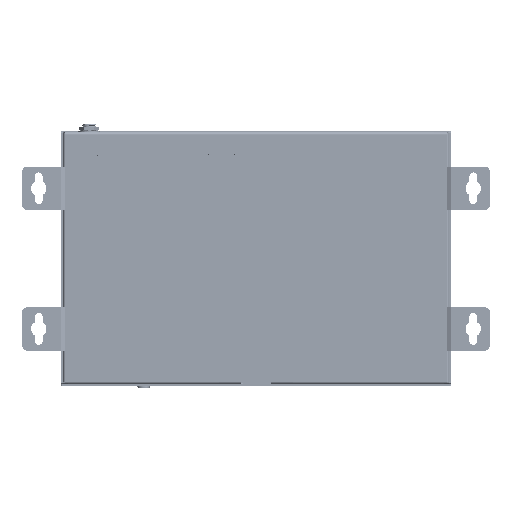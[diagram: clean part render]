
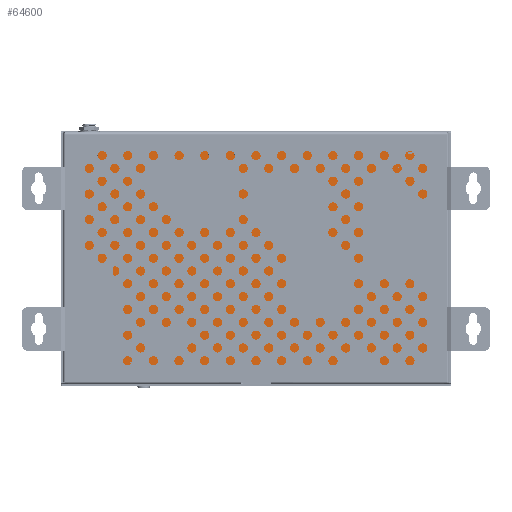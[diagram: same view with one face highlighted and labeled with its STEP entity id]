
A CAD part, front view. The second image highlights one B-rep face of the part: STEP entity #64600.
In plain terms, the highlighted planar face has unit normal (0, -1, 0).
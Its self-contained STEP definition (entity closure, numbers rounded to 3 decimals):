
#64061=CARTESIAN_POINT('',(-76.75,0.,-65.75));
#64062=DIRECTION('',(0.,1.,0.));
#64063=DIRECTION('',(0.,0.,-1.));
#64064=AXIS2_PLACEMENT_3D('',#64061,#64062,#64063);
#64066=DIRECTION('',(0.,0.,1.));
#64067=VECTOR('',#64066,63.25);
#64068=CARTESIAN_POINT('',(-78.75,0.,-65.75));
#64069=LINE('',#64068,#64067);
#64070=DIRECTION('',(-1.,0.,0.));
#64071=VECTOR('',#64070,20.5);
#64072=CARTESIAN_POINT('',(-78.75,0.,-2.5));
#64073=LINE('',#64072,#64071);
#64074=CARTESIAN_POINT('',(-99.25,0.,-0.5));
#64075=DIRECTION('',(0.,1.,0.));
#64076=DIRECTION('',(0.,0.,-1.));
#64077=AXIS2_PLACEMENT_3D('',#64074,#64075,#64076);
#64079=CARTESIAN_POINT('',(-99.25,0.,66.25));
#64080=DIRECTION('',(0.,1.,0.));
#64081=DIRECTION('',(-1.,0.,0.));
#64082=AXIS2_PLACEMENT_3D('',#64079,#64080,#64081);
#64084=DIRECTION('',(1.,0.,0.));
#64085=VECTOR('',#64084,14.5);
#64086=CARTESIAN_POINT('',(37.55,0.,59.75));
#64087=LINE('',#64086,#64085);
#64088=DIRECTION('',(0.,0.,1.));
#64089=VECTOR('',#64088,8.5);
#64090=CARTESIAN_POINT('',(52.05,0.,59.75));
#64091=LINE('',#64090,#64089);
#64092=CARTESIAN_POINT('',(99.25,0.,66.25));
#64093=DIRECTION('',(0.,1.,0.));
#64094=DIRECTION('',(0.,0.,1.));
#64095=AXIS2_PLACEMENT_3D('',#64092,#64093,#64094);
#64097=DIRECTION('',(0.,0.,-1.));
#64098=VECTOR('',#64097,132.);
#64099=CARTESIAN_POINT('',(101.25,0.,66.25));
#64100=LINE('',#64099,#64098);
#64101=CARTESIAN_POINT('',(99.25,0.,-65.75));
#64102=DIRECTION('',(0.,1.,0.));
#64103=DIRECTION('',(1.,0.,0.));
#64104=AXIS2_PLACEMENT_3D('',#64101,#64102,#64103);
#64106=DIRECTION('',(-1.,0.,0.));
#64107=VECTOR('',#64106,176.);
#64108=CARTESIAN_POINT('',(99.25,0.,-67.75));
#64109=LINE('',#64108,#64107);
#64110=CARTESIAN_POINT('',(71.,0.,36.1));
#64111=DIRECTION('',(0.,-1.,0.));
#64112=DIRECTION('',(1.,0.,0.));
#64113=AXIS2_PLACEMENT_3D('',#64110,#64111,#64112);
#64115=CARTESIAN_POINT('',(71.,0.,36.1));
#64116=DIRECTION('',(0.,-1.,0.));
#64117=DIRECTION('',(-1.,0.,0.));
#64118=AXIS2_PLACEMENT_3D('',#64115,#64116,#64117);
#64120=CARTESIAN_POINT('',(60.,0.,-57.25));
#64121=DIRECTION('',(0.,-1.,0.));
#64122=DIRECTION('',(1.,0.,0.));
#64123=AXIS2_PLACEMENT_3D('',#64120,#64121,#64122);
#64125=CARTESIAN_POINT('',(60.,0.,-57.25));
#64126=DIRECTION('',(0.,-1.,0.));
#64127=DIRECTION('',(-1.,0.,0.));
#64128=AXIS2_PLACEMENT_3D('',#64125,#64126,#64127);
#64130=CARTESIAN_POINT('',(-50.,0.,-43.9));
#64131=DIRECTION('',(0.,-1.,0.));
#64132=DIRECTION('',(1.,0.,0.));
#64133=AXIS2_PLACEMENT_3D('',#64130,#64131,#64132);
#64135=CARTESIAN_POINT('',(-50.,0.,-43.9));
#64136=DIRECTION('',(0.,-1.,0.));
#64137=DIRECTION('',(-1.,0.,0.));
#64138=AXIS2_PLACEMENT_3D('',#64135,#64136,#64137);
#64140=CARTESIAN_POINT('',(8.05,0.,30.95));
#64141=DIRECTION('',(0.,-1.,0.));
#64142=DIRECTION('',(-1.,0.,0.));
#64143=AXIS2_PLACEMENT_3D('',#64140,#64141,#64142);
#64145=CARTESIAN_POINT('',(8.05,0.,30.95));
#64146=DIRECTION('',(0.,-1.,0.));
#64147=DIRECTION('',(1.,0.,0.));
#64148=AXIS2_PLACEMENT_3D('',#64145,#64146,#64147);
#64150=CARTESIAN_POINT('',(30.05,0.,17.95));
#64151=DIRECTION('',(0.,-1.,0.));
#64152=DIRECTION('',(-1.,0.,0.));
#64153=AXIS2_PLACEMENT_3D('',#64150,#64151,#64152);
#64155=CARTESIAN_POINT('',(30.05,0.,17.95));
#64156=DIRECTION('',(0.,-1.,0.));
#64157=DIRECTION('',(1.,0.,0.));
#64158=AXIS2_PLACEMENT_3D('',#64155,#64156,#64157);
#64160=CARTESIAN_POINT('',(-54.,0.,45.1));
#64161=DIRECTION('',(0.,-1.,0.));
#64162=DIRECTION('',(1.,0.,0.));
#64163=AXIS2_PLACEMENT_3D('',#64160,#64161,#64162);
#64165=CARTESIAN_POINT('',(-54.,0.,45.1));
#64166=DIRECTION('',(0.,-1.,0.));
#64167=DIRECTION('',(-1.,0.,0.));
#64168=AXIS2_PLACEMENT_3D('',#64165,#64166,#64167);
#64307=DIRECTION('',(-1.,0.,0.));
#64308=VECTOR('',#64307,47.2);
#64309=CARTESIAN_POINT('',(99.25,0.,68.25));
#64310=LINE('',#64309,#64308);
#64331=DIRECTION('',(0.,0.,1.));
#64332=VECTOR('',#64331,8.5);
#64333=CARTESIAN_POINT('',(37.55,0.,59.75));
#64334=LINE('',#64333,#64332);
#64339=DIRECTION('',(-1.,0.,0.));
#64340=VECTOR('',#64339,136.8);
#64341=CARTESIAN_POINT('',(37.55,0.,68.25));
#64342=LINE('',#64341,#64340);
#64351=DIRECTION('',(0.,0.,-1.));
#64352=VECTOR('',#64351,66.75);
#64353=CARTESIAN_POINT('',(-101.25,0.,66.25));
#64354=LINE('',#64353,#64352);
#64419=CARTESIAN_POINT('',(-76.75,0.,-67.75));
#64420=CARTESIAN_POINT('',(-78.75,0.,-65.75));
#64421=VERTEX_POINT('',#64419);
#64422=VERTEX_POINT('',#64420);
#64423=CARTESIAN_POINT('',(-78.75,0.,-2.5));
#64424=VERTEX_POINT('',#64423);
#64425=CARTESIAN_POINT('',(-99.25,0.,-2.5));
#64426=VERTEX_POINT('',#64425);
#64427=CARTESIAN_POINT('',(-101.25,0.,-0.5));
#64428=VERTEX_POINT('',#64427);
#64429=CARTESIAN_POINT('',(-101.25,0.,66.25));
#64430=VERTEX_POINT('',#64429);
#64431=CARTESIAN_POINT('',(-99.25,0.,68.25));
#64432=VERTEX_POINT('',#64431);
#64433=CARTESIAN_POINT('',(37.55,0.,68.25));
#64434=VERTEX_POINT('',#64433);
#64435=CARTESIAN_POINT('',(37.55,0.,59.75));
#64436=VERTEX_POINT('',#64435);
#64437=CARTESIAN_POINT('',(52.05,0.,59.75));
#64438=VERTEX_POINT('',#64437);
#64439=CARTESIAN_POINT('',(52.05,0.,68.25));
#64440=VERTEX_POINT('',#64439);
#64441=CARTESIAN_POINT('',(99.25,0.,68.25));
#64442=VERTEX_POINT('',#64441);
#64443=CARTESIAN_POINT('',(101.25,0.,66.25));
#64444=VERTEX_POINT('',#64443);
#64445=CARTESIAN_POINT('',(101.25,0.,-65.75));
#64446=VERTEX_POINT('',#64445);
#64447=CARTESIAN_POINT('',(99.25,0.,-67.75));
#64448=VERTEX_POINT('',#64447);
#64449=CARTESIAN_POINT('',(72.6,0.,36.1));
#64450=CARTESIAN_POINT('',(69.4,0.,36.1));
#64451=VERTEX_POINT('',#64449);
#64452=VERTEX_POINT('',#64450);
#64453=CARTESIAN_POINT('',(61.6,0.,-57.25));
#64454=CARTESIAN_POINT('',(58.4,0.,-57.25));
#64455=VERTEX_POINT('',#64453);
#64456=VERTEX_POINT('',#64454);
#64457=CARTESIAN_POINT('',(-48.4,0.,-43.9));
#64458=CARTESIAN_POINT('',(-51.6,0.,-43.9));
#64459=VERTEX_POINT('',#64457);
#64460=VERTEX_POINT('',#64458);
#64461=CARTESIAN_POINT('',(6.45,0.,30.95));
#64462=CARTESIAN_POINT('',(9.65,0.,30.95));
#64463=VERTEX_POINT('',#64461);
#64464=VERTEX_POINT('',#64462);
#64465=CARTESIAN_POINT('',(28.45,0.,17.95));
#64466=CARTESIAN_POINT('',(31.65,0.,17.95));
#64467=VERTEX_POINT('',#64465);
#64468=VERTEX_POINT('',#64466);
#64469=CARTESIAN_POINT('',(-52.4,0.,45.1));
#64470=CARTESIAN_POINT('',(-55.6,0.,45.1));
#64471=VERTEX_POINT('',#64469);
#64472=VERTEX_POINT('',#64470);
#64527=CARTESIAN_POINT('',(0.,0.,0.));
#64528=DIRECTION('',(0.,1.,0.));
#64529=DIRECTION('',(1.,0.,0.));
#64530=AXIS2_PLACEMENT_3D('',#64527,#64528,#64529);
#64531=PLANE('',#64530);
#64533=ORIENTED_EDGE('',*,*,#64532,.T.);
#64535=ORIENTED_EDGE('',*,*,#64534,.T.);
#64537=ORIENTED_EDGE('',*,*,#64536,.T.);
#64539=ORIENTED_EDGE('',*,*,#64538,.T.);
#64541=ORIENTED_EDGE('',*,*,#64540,.F.);
#64543=ORIENTED_EDGE('',*,*,#64542,.T.);
#64545=ORIENTED_EDGE('',*,*,#64544,.F.);
#64547=ORIENTED_EDGE('',*,*,#64546,.F.);
#64549=ORIENTED_EDGE('',*,*,#64548,.T.);
#64551=ORIENTED_EDGE('',*,*,#64550,.T.);
#64553=ORIENTED_EDGE('',*,*,#64552,.F.);
#64555=ORIENTED_EDGE('',*,*,#64554,.T.);
#64557=ORIENTED_EDGE('',*,*,#64556,.T.);
#64559=ORIENTED_EDGE('',*,*,#64558,.T.);
#64561=ORIENTED_EDGE('',*,*,#64560,.T.);
#64562=EDGE_LOOP('',(#64533,#64535,#64537,#64539,#64541,#64543,#64545,#64547,
#64549,#64551,#64553,#64555,#64557,#64559,#64561));
#64563=FACE_OUTER_BOUND('',#64562,.F.);
#64565=ORIENTED_EDGE('',*,*,#64564,.T.);
#64567=ORIENTED_EDGE('',*,*,#64566,.T.);
#64568=EDGE_LOOP('',(#64565,#64567));
#64569=FACE_BOUND('',#64568,.F.);
#64571=ORIENTED_EDGE('',*,*,#64570,.T.);
#64573=ORIENTED_EDGE('',*,*,#64572,.T.);
#64574=EDGE_LOOP('',(#64571,#64573));
#64575=FACE_BOUND('',#64574,.F.);
#64577=ORIENTED_EDGE('',*,*,#64576,.T.);
#64579=ORIENTED_EDGE('',*,*,#64578,.T.);
#64580=EDGE_LOOP('',(#64577,#64579));
#64581=FACE_BOUND('',#64580,.F.);
#64583=ORIENTED_EDGE('',*,*,#64582,.T.);
#64585=ORIENTED_EDGE('',*,*,#64584,.T.);
#64586=EDGE_LOOP('',(#64583,#64585));
#64587=FACE_BOUND('',#64586,.F.);
#64589=ORIENTED_EDGE('',*,*,#64588,.T.);
#64591=ORIENTED_EDGE('',*,*,#64590,.T.);
#64592=EDGE_LOOP('',(#64589,#64591));
#64593=FACE_BOUND('',#64592,.F.);
#64595=ORIENTED_EDGE('',*,*,#64594,.T.);
#64597=ORIENTED_EDGE('',*,*,#64596,.T.);
#64598=EDGE_LOOP('',(#64595,#64597));
#64599=FACE_BOUND('',#64598,.F.);
#64065=CIRCLE('',#64064,2.);
#64078=CIRCLE('',#64077,2.);
#64083=CIRCLE('',#64082,2.);
#64096=CIRCLE('',#64095,2.);
#64105=CIRCLE('',#64104,2.);
#64114=CIRCLE('',#64113,1.6);
#64119=CIRCLE('',#64118,1.6);
#64124=CIRCLE('',#64123,1.6);
#64129=CIRCLE('',#64128,1.6);
#64134=CIRCLE('',#64133,1.6);
#64139=CIRCLE('',#64138,1.6);
#64144=CIRCLE('',#64143,1.6);
#64149=CIRCLE('',#64148,1.6);
#64154=CIRCLE('',#64153,1.6);
#64159=CIRCLE('',#64158,1.6);
#64164=CIRCLE('',#64163,1.6);
#64169=CIRCLE('',#64168,1.6);
#64532=EDGE_CURVE('',#64421,#64422,#64065,.T.);
#64534=EDGE_CURVE('',#64422,#64424,#64069,.T.);
#64536=EDGE_CURVE('',#64424,#64426,#64073,.T.);
#64538=EDGE_CURVE('',#64426,#64428,#64078,.T.);
#64540=EDGE_CURVE('',#64430,#64428,#64354,.T.);
#64542=EDGE_CURVE('',#64430,#64432,#64083,.T.);
#64544=EDGE_CURVE('',#64434,#64432,#64342,.T.);
#64546=EDGE_CURVE('',#64436,#64434,#64334,.T.);
#64548=EDGE_CURVE('',#64436,#64438,#64087,.T.);
#64550=EDGE_CURVE('',#64438,#64440,#64091,.T.);
#64552=EDGE_CURVE('',#64442,#64440,#64310,.T.);
#64554=EDGE_CURVE('',#64442,#64444,#64096,.T.);
#64556=EDGE_CURVE('',#64444,#64446,#64100,.T.);
#64558=EDGE_CURVE('',#64446,#64448,#64105,.T.);
#64560=EDGE_CURVE('',#64448,#64421,#64109,.T.);
#64564=EDGE_CURVE('',#64451,#64452,#64114,.T.);
#64566=EDGE_CURVE('',#64452,#64451,#64119,.T.);
#64570=EDGE_CURVE('',#64455,#64456,#64124,.T.);
#64572=EDGE_CURVE('',#64456,#64455,#64129,.T.);
#64576=EDGE_CURVE('',#64459,#64460,#64134,.T.);
#64578=EDGE_CURVE('',#64460,#64459,#64139,.T.);
#64582=EDGE_CURVE('',#64463,#64464,#64144,.T.);
#64584=EDGE_CURVE('',#64464,#64463,#64149,.T.);
#64588=EDGE_CURVE('',#64467,#64468,#64154,.T.);
#64590=EDGE_CURVE('',#64468,#64467,#64159,.T.);
#64594=EDGE_CURVE('',#64471,#64472,#64164,.T.);
#64596=EDGE_CURVE('',#64472,#64471,#64169,.T.);
#64600=ADVANCED_FACE('',(#64563,#64569,#64575,#64581,#64587,#64593,#64599),
#64531,.F.);
